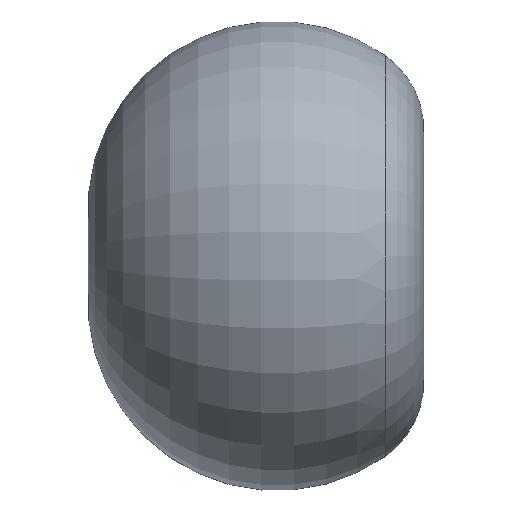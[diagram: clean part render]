
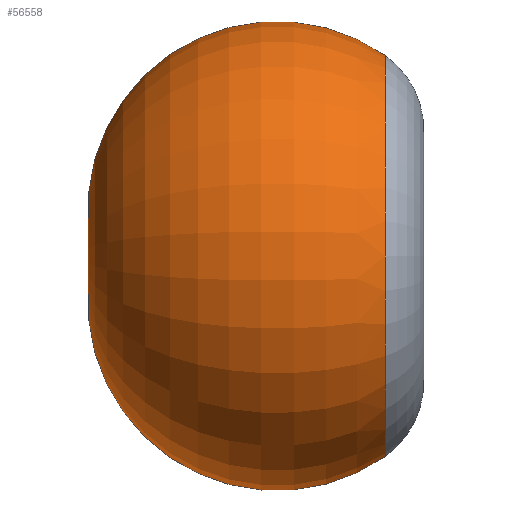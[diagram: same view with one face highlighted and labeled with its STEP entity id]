
A CAD part, left-side view. The second image highlights one B-rep face of the part: STEP entity #56558.
In plain terms, the highlighted toroidal (fillet/blend) face has major radius 400 mm and minor radius 1650 mm.
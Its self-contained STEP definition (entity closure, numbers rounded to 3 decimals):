
#1456 = AXIS2_PLACEMENT_3D ( 'NONE', #117905, #63082, #53698 ) ;
#3638 = TOROIDAL_SURFACE ( 'NONE', #1456, 400., 1650. ) ;
#10082 = AXIS2_PLACEMENT_3D ( 'NONE', #83562, #19398, #94368 ) ;
#19398 = DIRECTION ( 'NONE',  ( -1., 0., 0. ) ) ;
#44718 = ORIENTED_EDGE ( 'NONE', *, *, #94773, .F. ) ;
#45184 = CARTESIAN_POINT ( 'NONE',  ( 0., -396.401, -1751.601 ) ) ;
#49160 = VERTEX_POINT ( 'NONE', #45184 ) ;
#50133 = CARTESIAN_POINT ( 'NONE',  ( 0., 550., 400. ) ) ;
#50973 = CARTESIAN_POINT ( 'NONE',  ( 0., 2150.781, 0. ) ) ;
#53698 = DIRECTION ( 'NONE',  ( 0., 0., -1. ) ) ;
#56558 = ADVANCED_FACE ( 'NONE', ( #85731 ), #3638, .T. ) ;
#57210 = CARTESIAN_POINT ( 'NONE',  ( 0., -396.401, 0. ) ) ;
#60915 = DIRECTION ( 'NONE',  ( 0., 0., -1. ) ) ;
#63082 = DIRECTION ( 'NONE',  ( 0., -1., 0. ) ) ;
#64142 = AXIS2_PLACEMENT_3D ( 'NONE', #50133, #125124, #60915 ) ;
#64797 = CIRCLE ( 'NONE', #138376, 1751.601 ) ;
#64814 = VERTEX_POINT ( 'NONE', #67094 ) ;
#66305 = CIRCLE ( 'NONE', #10082, 1650. ) ;
#67094 = CARTESIAN_POINT ( 'NONE',  ( 0., -396.401, 1751.601 ) ) ;
#67923 = DIRECTION ( 'NONE',  ( 0., 0., -1. ) ) ;
#80874 = EDGE_CURVE ( 'NONE', #111150, #49160, #66305, .T. ) ;
#81044 = CIRCLE ( 'NONE', #64142, 1650. ) ;
#83562 = CARTESIAN_POINT ( 'NONE',  ( 0., 550., -400. ) ) ;
#84031 = EDGE_LOOP ( 'NONE', ( #120388, #100150, #44718 ) ) ;
#85731 = FACE_OUTER_BOUND ( 'NONE', #84031, .T. ) ;
#94368 = DIRECTION ( 'NONE',  ( 0., 0., 1. ) ) ;
#94773 = EDGE_CURVE ( 'NONE', #64814, #49160, #64797, .T. ) ;
#100150 = ORIENTED_EDGE ( 'NONE', *, *, #80874, .T. ) ;
#111150 = VERTEX_POINT ( 'NONE', #50973 ) ;
#117905 = CARTESIAN_POINT ( 'NONE',  ( 0., 550., 0. ) ) ;
#120388 = ORIENTED_EDGE ( 'NONE', *, *, #138991, .F. ) ;
#125124 = DIRECTION ( 'NONE',  ( 1., 0., 0. ) ) ;
#132172 = DIRECTION ( 'NONE',  ( 0., -1., 0. ) ) ;
#138376 = AXIS2_PLACEMENT_3D ( 'NONE', #57210, #132172, #67923 ) ;
#138991 = EDGE_CURVE ( 'NONE', #111150, #64814, #81044, .T. ) ;
